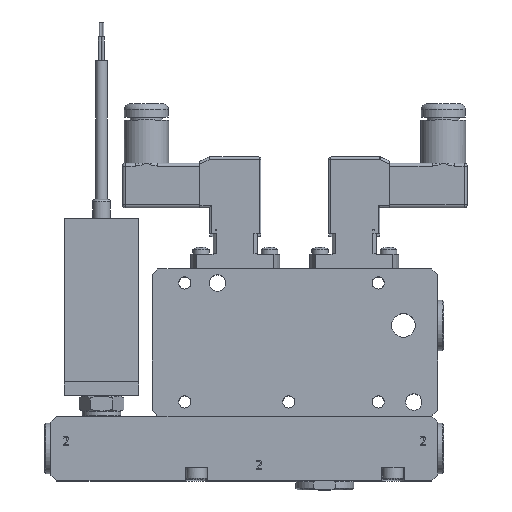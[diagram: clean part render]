
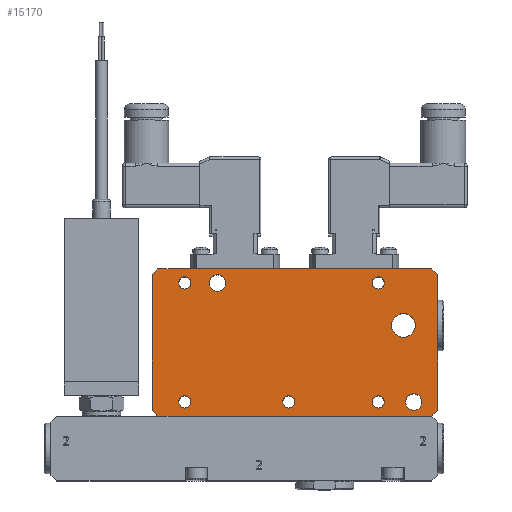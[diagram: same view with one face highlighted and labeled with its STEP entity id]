
A CAD part, top view. The second image highlights one B-rep face of the part: STEP entity #15170.
In plain terms, the highlighted planar face has unit normal (0, 0, 1).
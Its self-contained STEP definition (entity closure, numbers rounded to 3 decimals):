
#386=FACE_BOUND('',#2730,.T.);
#387=FACE_BOUND('',#2731,.T.);
#388=FACE_BOUND('',#2732,.T.);
#389=FACE_BOUND('',#2733,.T.);
#390=FACE_BOUND('',#2734,.T.);
#391=FACE_BOUND('',#2735,.T.);
#392=FACE_BOUND('',#2736,.T.);
#393=FACE_BOUND('',#2737,.T.);
#536=PLANE('',#16445);
#1841=FACE_OUTER_BOUND('',#2729,.T.);
#2729=EDGE_LOOP('',(#10689,#10690,#10691,#10692,#10693,#10694,#10695,#10696));
#2730=EDGE_LOOP('',(#10697));
#2731=EDGE_LOOP('',(#10698));
#2732=EDGE_LOOP('',(#10699));
#2733=EDGE_LOOP('',(#10700));
#2734=EDGE_LOOP('',(#10701));
#2735=EDGE_LOOP('',(#10702));
#2736=EDGE_LOOP('',(#10703));
#2737=EDGE_LOOP('',(#10704));
#4088=LINE('',#21490,#5346);
#4089=LINE('',#21492,#5347);
#4090=LINE('',#21494,#5348);
#4091=LINE('',#21496,#5349);
#4092=LINE('',#21498,#5350);
#4093=LINE('',#21500,#5351);
#4094=LINE('',#21502,#5352);
#4095=LINE('',#21503,#5353);
#5346=VECTOR('',#17738,10.);
#5347=VECTOR('',#17739,10.);
#5348=VECTOR('',#17740,10.);
#5349=VECTOR('',#17741,10.);
#5350=VECTOR('',#17742,10.);
#5351=VECTOR('',#17743,10.);
#5352=VECTOR('',#17744,10.);
#5353=VECTOR('',#17745,10.);
#6613=CIRCLE('',#16436,2.05);
#6614=CIRCLE('',#16438,2.05);
#6615=CIRCLE('',#16440,2.05);
#6616=CIRCLE('',#16442,2.05);
#6617=CIRCLE('',#16444,2.05);
#6618=CIRCLE('',#16446,2.75);
#6619=CIRCLE('',#16447,2.75);
#6620=CIRCLE('',#16448,4.);
#7067=VERTEX_POINT('',#21468);
#7068=VERTEX_POINT('',#21472);
#7069=VERTEX_POINT('',#21476);
#7070=VERTEX_POINT('',#21480);
#7071=VERTEX_POINT('',#21484);
#7072=VERTEX_POINT('',#21488);
#7073=VERTEX_POINT('',#21489);
#7074=VERTEX_POINT('',#21491);
#7075=VERTEX_POINT('',#21493);
#7076=VERTEX_POINT('',#21495);
#7077=VERTEX_POINT('',#21497);
#7078=VERTEX_POINT('',#21499);
#7079=VERTEX_POINT('',#21501);
#7080=VERTEX_POINT('',#21504);
#7081=VERTEX_POINT('',#21506);
#7082=VERTEX_POINT('',#21508);
#8485=EDGE_CURVE('',#7067,#7067,#6613,.T.);
#8487=EDGE_CURVE('',#7068,#7068,#6614,.T.);
#8489=EDGE_CURVE('',#7069,#7069,#6615,.T.);
#8491=EDGE_CURVE('',#7070,#7070,#6616,.T.);
#8493=EDGE_CURVE('',#7071,#7071,#6617,.T.);
#8495=EDGE_CURVE('',#7072,#7073,#4088,.T.);
#8496=EDGE_CURVE('',#7072,#7074,#4089,.T.);
#8497=EDGE_CURVE('',#7075,#7074,#4090,.T.);
#8498=EDGE_CURVE('',#7075,#7076,#4091,.T.);
#8499=EDGE_CURVE('',#7077,#7076,#4092,.T.);
#8500=EDGE_CURVE('',#7077,#7078,#4093,.T.);
#8501=EDGE_CURVE('',#7079,#7078,#4094,.T.);
#8502=EDGE_CURVE('',#7079,#7073,#4095,.T.);
#8503=EDGE_CURVE('',#7080,#7080,#6618,.T.);
#8504=EDGE_CURVE('',#7081,#7081,#6619,.T.);
#8505=EDGE_CURVE('',#7082,#7082,#6620,.T.);
#10689=ORIENTED_EDGE('',*,*,#8495,.F.);
#10690=ORIENTED_EDGE('',*,*,#8496,.T.);
#10691=ORIENTED_EDGE('',*,*,#8497,.F.);
#10692=ORIENTED_EDGE('',*,*,#8498,.T.);
#10693=ORIENTED_EDGE('',*,*,#8499,.F.);
#10694=ORIENTED_EDGE('',*,*,#8500,.T.);
#10695=ORIENTED_EDGE('',*,*,#8501,.F.);
#10696=ORIENTED_EDGE('',*,*,#8502,.T.);
#10697=ORIENTED_EDGE('',*,*,#8503,.T.);
#10698=ORIENTED_EDGE('',*,*,#8504,.T.);
#10699=ORIENTED_EDGE('',*,*,#8485,.T.);
#10700=ORIENTED_EDGE('',*,*,#8487,.T.);
#10701=ORIENTED_EDGE('',*,*,#8489,.T.);
#10702=ORIENTED_EDGE('',*,*,#8491,.T.);
#10703=ORIENTED_EDGE('',*,*,#8493,.T.);
#10704=ORIENTED_EDGE('',*,*,#8505,.T.);
#15170=ADVANCED_FACE('',(#1841,#386,#387,#388,#389,#390,#391,#392,#393),
#536,.T.);
#16436=AXIS2_PLACEMENT_3D('',#21469,#17713,#17714);
#16438=AXIS2_PLACEMENT_3D('',#21473,#17718,#17719);
#16440=AXIS2_PLACEMENT_3D('',#21477,#17723,#17724);
#16442=AXIS2_PLACEMENT_3D('',#21481,#17728,#17729);
#16444=AXIS2_PLACEMENT_3D('',#21485,#17733,#17734);
#16445=AXIS2_PLACEMENT_3D('',#21487,#17736,#17737);
#16446=AXIS2_PLACEMENT_3D('',#21505,#17746,#17747);
#16447=AXIS2_PLACEMENT_3D('',#21507,#17748,#17749);
#16448=AXIS2_PLACEMENT_3D('',#21509,#17750,#17751);
#17713=DIRECTION('center_axis',(0.,0.,
-1.));
#17714=DIRECTION('ref_axis',(1.,0.,0.));
#17718=DIRECTION('center_axis',(0.,0.,
-1.));
#17719=DIRECTION('ref_axis',(1.,0.,0.));
#17723=DIRECTION('center_axis',(0.,0.,
-1.));
#17724=DIRECTION('ref_axis',(1.,0.,0.));
#17728=DIRECTION('center_axis',(0.,0.,
-1.));
#17729=DIRECTION('ref_axis',(1.,0.,0.));
#17733=DIRECTION('center_axis',(0.,0.,
-1.));
#17734=DIRECTION('ref_axis',(1.,0.,0.));
#17736=DIRECTION('center_axis',(0.,0.,
1.));
#17737=DIRECTION('ref_axis',(1.,0.,0.));
#17738=DIRECTION('',(-0.707,-0.707,0.));
#17739=DIRECTION('',(0.,1.,0.));
#17740=DIRECTION('',(0.707,-0.707,0.));
#17741=DIRECTION('',(-1.,0.,0.));
#17742=DIRECTION('',(0.707,0.707,0.));
#17743=DIRECTION('',(0.,-1.,0.));
#17744=DIRECTION('',(-0.707,0.707,0.));
#17745=DIRECTION('',(1.,0.,0.));
#17746=DIRECTION('center_axis',(0.,0.,
-1.));
#17747=DIRECTION('ref_axis',(-1.,0.,0.));
#17748=DIRECTION('center_axis',(0.,0.,
-1.));
#17749=DIRECTION('ref_axis',(-1.,0.,0.));
#17750=DIRECTION('center_axis',(0.,0.,
-1.));
#17751=DIRECTION('ref_axis',(1.,0.,0.));
#21468=CARTESIAN_POINT('',(-8.288,42.299,18.089));
#21469=CARTESIAN_POINT('Origin',(-6.238,42.299,18.089));
#21472=CARTESIAN_POINT('',(26.712,2.299,18.089));
#21473=CARTESIAN_POINT('Origin',(28.762,2.299,18.089));
#21476=CARTESIAN_POINT('',(56.712,2.299,18.089));
#21477=CARTESIAN_POINT('Origin',(58.762,2.299,18.089));
#21480=CARTESIAN_POINT('',(-8.288,2.299,18.089));
#21481=CARTESIAN_POINT('Origin',(-6.238,2.299,18.089));
#21484=CARTESIAN_POINT('',(56.712,42.299,18.089));
#21485=CARTESIAN_POINT('Origin',(58.762,42.299,18.089));
#21487=CARTESIAN_POINT('Origin',(30.762,22.299,18.089));
#21488=CARTESIAN_POINT('',(78.762,-0.451,18.089));
#21489=CARTESIAN_POINT('',(76.762,-2.451,18.089));
#21490=CARTESIAN_POINT('',(71.949,-7.264,18.089));
#21491=CARTESIAN_POINT('',(78.762,45.049,18.089));
#21492=CARTESIAN_POINT('',(78.762,47.049,18.089));
#21493=CARTESIAN_POINT('',(76.762,47.049,18.089));
#21494=CARTESIAN_POINT('',(71.949,51.861,18.089));
#21495=CARTESIAN_POINT('',(-15.238,47.049,18.089));
#21496=CARTESIAN_POINT('',(-17.238,47.049,18.089));
#21497=CARTESIAN_POINT('',(-17.238,45.049,18.089));
#21498=CARTESIAN_POINT('',(-10.426,51.861,18.089));
#21499=CARTESIAN_POINT('',(-17.238,-0.451,18.089));
#21500=CARTESIAN_POINT('',(-17.238,-2.451,18.089));
#21501=CARTESIAN_POINT('',(-15.238,-2.451,18.089));
#21502=CARTESIAN_POINT('',(-10.426,-7.264,18.089));
#21503=CARTESIAN_POINT('',(78.762,-2.451,18.089));
#21504=CARTESIAN_POINT('',(2.012,42.299,18.089));
#21505=CARTESIAN_POINT('Origin',(4.762,42.299,18.089));
#21506=CARTESIAN_POINT('',(68.012,2.299,18.089));
#21507=CARTESIAN_POINT('Origin',(70.762,2.299,18.089));
#21508=CARTESIAN_POINT('',(63.262,28.049,18.089));
#21509=CARTESIAN_POINT('Origin',(67.262,28.049,18.089));
